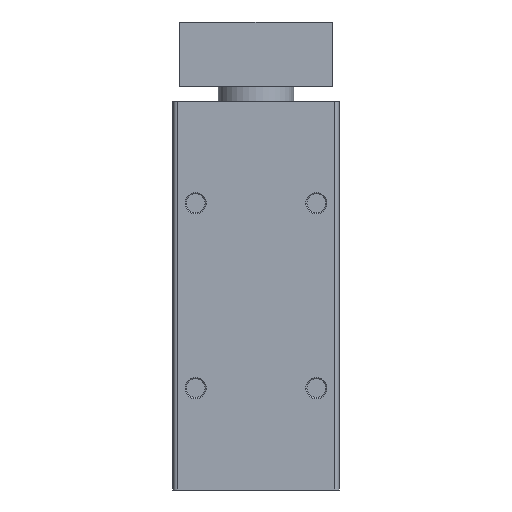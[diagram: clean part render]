
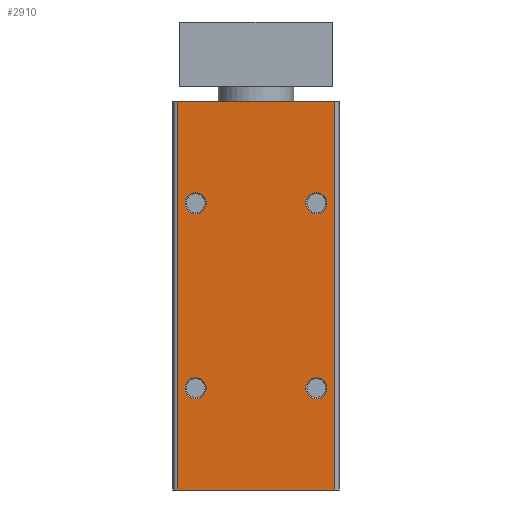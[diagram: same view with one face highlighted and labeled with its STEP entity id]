
A CAD part, front view. The second image highlights one B-rep face of the part: STEP entity #2910.
In plain terms, the highlighted planar face has unit normal (0, -1, 0).
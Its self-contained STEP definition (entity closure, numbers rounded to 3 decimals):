
#1357=CARTESIAN_POINT('',(20.8,-56.,-107.));
#1358=VERTEX_POINT('',#1357);
#1366=CARTESIAN_POINT('',(-20.8,-56.,-107.));
#1367=VERTEX_POINT('',#1366);
#1368=CARTESIAN_POINT('',(-20.8,-56.,-107.));
#1369=DIRECTION('',(1.0,0.0,0.0));
#1370=VECTOR('',#1369,41.6);
#1371=LINE('',#1368,#1370);
#1372=EDGE_CURVE('',#1367,#1358,#1371,.T.);
#1639=CARTESIAN_POINT('',(-20.8,-56.,-4.));
#1640=VERTEX_POINT('',#1639);
#1648=CARTESIAN_POINT('',(20.8,-56.,-4.));
#1649=VERTEX_POINT('',#1648);
#1650=CARTESIAN_POINT('',(20.8,-56.,-4.));
#1651=DIRECTION('',(-1.0,0.0,0.0));
#1652=VECTOR('',#1651,41.6);
#1653=LINE('',#1650,#1652);
#1654=EDGE_CURVE('',#1649,#1640,#1653,.T.);
#2841=CARTESIAN_POINT('',(-13.2,-56.,-31.));
#2842=VERTEX_POINT('',#2841);
#2843=CARTESIAN_POINT('',(-16.0,-56.,-31.));
#2844=DIRECTION('',(0.0,-1.0,0.0));
#2845=DIRECTION('',(-1.0,0.0,0.0));
#2846=AXIS2_PLACEMENT_3D('',#2843,#2844,#2845);
#2847=CIRCLE('',#2846,2.8);
#2848=EDGE_CURVE('',#2842,#2842,#2847,.T.);
#2853=CARTESIAN_POINT('',(-20.8,-56.,-4.));
#2854=DIRECTION('',(0.0,-1.0,0.0));
#2855=DIRECTION('',(0.0,0.0,-1.0));
#2856=AXIS2_PLACEMENT_3D('',#2853,#2854,#2855);
#2857=PLANE('',#2856);
#2858=ORIENTED_EDGE('',*,*,#1372,.T.);
#2859=CARTESIAN_POINT('',(20.8,-56.,-4.));
#2860=DIRECTION('',(0.0,0.0,-1.0));
#2861=VECTOR('',#2860,103.0);
#2862=LINE('',#2859,#2861);
#2863=EDGE_CURVE('',#1649,#1358,#2862,.T.);
#2864=ORIENTED_EDGE('',*,*,#2863,.F.);
#2865=ORIENTED_EDGE('',*,*,#1654,.T.);
#2866=CARTESIAN_POINT('',(-20.8,-56.,-4.));
#2867=DIRECTION('',(0.0,0.0,-1.0));
#2868=VECTOR('',#2867,103.0);
#2869=LINE('',#2866,#2868);
#2870=EDGE_CURVE('',#1640,#1367,#2869,.T.);
#2871=ORIENTED_EDGE('',*,*,#2870,.T.);
#2872=EDGE_LOOP('',(#2858,#2864,#2865,#2871));
#2873=FACE_OUTER_BOUND('',#2872,.T.);
#2874=CARTESIAN_POINT('',(-13.2,-56.,-80.0));
#2875=VERTEX_POINT('',#2874);
#2876=CARTESIAN_POINT('',(-16.0,-56.,-80.0));
#2877=DIRECTION('',(0.0,-1.0,0.0));
#2878=DIRECTION('',(-1.0,0.0,0.0));
#2879=AXIS2_PLACEMENT_3D('',#2876,#2877,#2878);
#2880=CIRCLE('',#2879,2.8);
#2881=EDGE_CURVE('',#2875,#2875,#2880,.T.);
#2882=ORIENTED_EDGE('',*,*,#2881,.F.);
#2883=EDGE_LOOP('',(#2882));
#2884=FACE_BOUND('',#2883,.T.);
#2885=CARTESIAN_POINT('',(18.8,-56.,-31.));
#2886=VERTEX_POINT('',#2885);
#2887=CARTESIAN_POINT('',(16.0,-56.,-31.));
#2888=DIRECTION('',(0.0,-1.0,0.0));
#2889=DIRECTION('',(-1.0,0.0,0.0));
#2890=AXIS2_PLACEMENT_3D('',#2887,#2888,#2889);
#2891=CIRCLE('',#2890,2.8);
#2892=EDGE_CURVE('',#2886,#2886,#2891,.T.);
#2893=ORIENTED_EDGE('',*,*,#2892,.F.);
#2894=EDGE_LOOP('',(#2893));
#2895=FACE_BOUND('',#2894,.T.);
#2896=CARTESIAN_POINT('',(18.8,-56.,-80.0));
#2897=VERTEX_POINT('',#2896);
#2898=CARTESIAN_POINT('',(16.0,-56.,-80.0));
#2899=DIRECTION('',(0.0,-1.0,0.0));
#2900=DIRECTION('',(-1.0,0.0,0.0));
#2901=AXIS2_PLACEMENT_3D('',#2898,#2899,#2900);
#2902=CIRCLE('',#2901,2.8);
#2903=EDGE_CURVE('',#2897,#2897,#2902,.T.);
#2904=ORIENTED_EDGE('',*,*,#2903,.F.);
#2905=EDGE_LOOP('',(#2904));
#2906=FACE_BOUND('',#2905,.T.);
#2907=ORIENTED_EDGE('',*,*,#2848,.F.);
#2908=EDGE_LOOP('',(#2907));
#2909=FACE_BOUND('',#2908,.T.);
#2910=ADVANCED_FACE('',(#2873,#2884,#2895,#2906,#2909),#2857,.T.);
